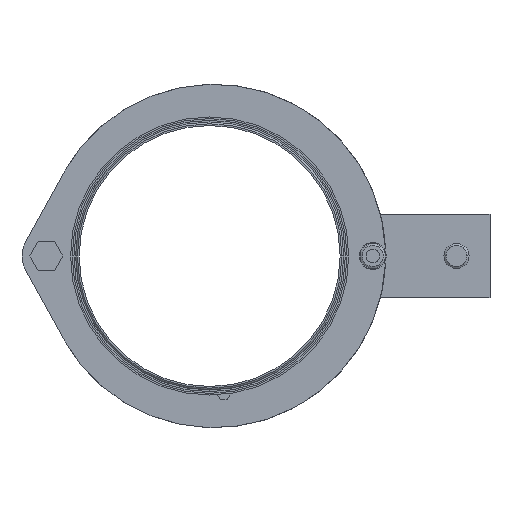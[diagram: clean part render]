
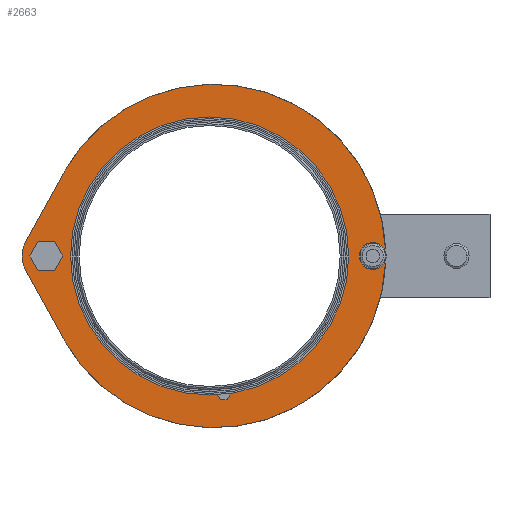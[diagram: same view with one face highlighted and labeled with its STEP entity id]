
A CAD part, left-side view. The second image highlights one B-rep face of the part: STEP entity #2663.
In plain terms, the highlighted planar face has unit normal (-1, 0, 0).
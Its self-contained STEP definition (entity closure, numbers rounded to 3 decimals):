
#182=CARTESIAN_POINT('',(-3.,0.,0.));
#183=DIRECTION('',(-1.,0.,0.));
#184=DIRECTION('',(0.,0.876,-0.483));
#185=AXIS2_PLACEMENT_3D('',#182,#183,#184);
#220=DIRECTION('',(0.,0.5,0.866));
#221=VECTOR('',#220,9.8);
#222=CARTESIAN_POINT('',(-3.,90.2,0.));
#223=LINE('',#222,#221);
#227=DIRECTION('',(0.,1.,0.));
#228=VECTOR('',#227,9.8);
#229=CARTESIAN_POINT('',(-3.,95.1,8.487));
#230=LINE('',#229,#228);
#234=DIRECTION('',(0.,0.5,-0.866));
#235=VECTOR('',#234,9.8);
#236=CARTESIAN_POINT('',(-3.,104.9,8.487));
#237=LINE('',#236,#235);
#241=DIRECTION('',(0.,-0.5,-0.866));
#242=VECTOR('',#241,9.8);
#243=CARTESIAN_POINT('',(-3.,109.8,0.));
#244=LINE('',#243,#242);
#248=DIRECTION('',(0.,-1.,0.));
#249=VECTOR('',#248,9.8);
#250=CARTESIAN_POINT('',(-3.,104.9,-8.487));
#251=LINE('',#250,#249);
#255=DIRECTION('',(0.,-0.5,0.866));
#256=VECTOR('',#255,9.8);
#257=CARTESIAN_POINT('',(-3.,95.1,-8.487));
#258=LINE('',#257,#256);
#262=CARTESIAN_POINT('',(-3.,-94.841,0.));
#263=DIRECTION('',(-1.,0.,0.));
#264=DIRECTION('',(0.,1.,0.));
#265=AXIS2_PLACEMENT_3D('',#262,#263,#264);
#270=DIRECTION('',(0.,1.,0.));
#271=VECTOR('',#270,0.793);
#272=CARTESIAN_POINT('',(-3.,-102.412,-4.25));
#273=LINE('',#272,#271);
#277=DIRECTION('',(0.,-0.483,-0.876));
#278=VECTOR('',#277,46.604);
#279=CARTESIAN_POINT('',(-3.,112.261,-8.693));
#280=LINE('',#279,#278);
#284=CARTESIAN_POINT('',(-3.,96.5,0.));
#285=DIRECTION('',(-1.,0.,0.));
#286=DIRECTION('',(0.,0.876,0.483));
#287=AXIS2_PLACEMENT_3D('',#284,#285,#286);
#292=DIRECTION('',(0.,0.483,-0.876));
#293=VECTOR('',#292,46.604);
#294=CARTESIAN_POINT('',(-3.,89.754,49.502));
#295=LINE('',#294,#293);
#299=CARTESIAN_POINT('',(-3.,0.,0.));
#300=DIRECTION('',(-1.,0.,0.));
#301=DIRECTION('',(0.,-0.999,0.041));
#302=AXIS2_PLACEMENT_3D('',#299,#300,#301);
#307=DIRECTION('',(0.,-1.,0.));
#308=VECTOR('',#307,0.793);
#309=CARTESIAN_POINT('',(-3.,-101.619,4.25));
#310=LINE('',#309,#308);
#314=CARTESIAN_POINT('',(-3.,-94.841,0.));
#315=DIRECTION('',(-1.,0.,0.));
#316=DIRECTION('',(0.,-0.847,0.531));
#317=AXIS2_PLACEMENT_3D('',#314,#315,#316);
#322=CARTESIAN_POINT('',(-3.,2.5,0.));
#323=DIRECTION('',(-1.,0.,0.));
#324=DIRECTION('',(0.,1.,0.));
#325=AXIS2_PLACEMENT_3D('',#322,#323,#324);
#330=DIRECTION('',(0.,0.5,-0.866));
#331=VECTOR('',#330,2.896);
#332=CARTESIAN_POINT('',(-3.,-3.408,-79.782));
#333=LINE('',#332,#331);
#337=DIRECTION('',(0.,-0.5,-0.866));
#338=VECTOR('',#337,4.);
#339=CARTESIAN_POINT('',(-3.,-1.96,-82.29));
#340=LINE('',#339,#338);
#344=DIRECTION('',(0.,-1.,0.));
#345=VECTOR('',#344,4.);
#346=CARTESIAN_POINT('',(-3.,-3.96,-85.754));
#347=LINE('',#346,#345);
#351=DIRECTION('',(0.,-0.5,0.866));
#352=VECTOR('',#351,4.);
#353=CARTESIAN_POINT('',(-3.,-7.96,-85.754));
#354=LINE('',#353,#352);
#358=DIRECTION('',(0.,0.5,0.866));
#359=VECTOR('',#358,3.478);
#360=CARTESIAN_POINT('',(-3.,-9.96,-82.29));
#361=LINE('',#360,#359);
#365=CARTESIAN_POINT('',(-3.,2.5,0.));
#366=DIRECTION('',(-1.,0.,0.));
#367=DIRECTION('',(0.,-0.134,-0.991));
#368=AXIS2_PLACEMENT_3D('',#365,#366,#367);
#373=CARTESIAN_POINT('',(-3.,2.5,0.));
#374=DIRECTION('',(-1.,0.,0.));
#375=DIRECTION('',(0.,-1.,0.));
#376=AXIS2_PLACEMENT_3D('',#373,#374,#375);
#2097=CARTESIAN_POINT('',(-3.,89.754,49.502));
#2098=CARTESIAN_POINT('',(-3.,112.261,8.693));
#2099=VERTEX_POINT('',#2097);
#2100=VERTEX_POINT('',#2098);
#2101=CARTESIAN_POINT('',(-3.,112.261,-8.693));
#2102=VERTEX_POINT('',#2101);
#2103=CARTESIAN_POINT('',(-3.,89.754,-49.502));
#2104=VERTEX_POINT('',#2103);
#2105=CARTESIAN_POINT('',(-3.,-102.412,4.25));
#2106=VERTEX_POINT('',#2105);
#2119=CARTESIAN_POINT('',(-3.,90.2,0.));
#2120=CARTESIAN_POINT('',(-3.,95.1,8.487));
#2121=VERTEX_POINT('',#2119);
#2122=VERTEX_POINT('',#2120);
#2123=CARTESIAN_POINT('',(-3.,104.9,8.487));
#2124=VERTEX_POINT('',#2123);
#2125=CARTESIAN_POINT('',(-3.,109.8,0.));
#2126=VERTEX_POINT('',#2125);
#2127=CARTESIAN_POINT('',(-3.,104.9,-8.487));
#2128=VERTEX_POINT('',#2127);
#2129=CARTESIAN_POINT('',(-3.,95.1,-8.487));
#2130=VERTEX_POINT('',#2129);
#2139=CARTESIAN_POINT('',(-3.,-1.96,-82.29));
#2140=CARTESIAN_POINT('',(-3.,-3.96,-85.754));
#2141=VERTEX_POINT('',#2139);
#2142=VERTEX_POINT('',#2140);
#2143=CARTESIAN_POINT('',(-3.,-7.96,-85.754));
#2144=VERTEX_POINT('',#2143);
#2145=CARTESIAN_POINT('',(-3.,-9.96,-82.29));
#2146=VERTEX_POINT('',#2145);
#2261=CARTESIAN_POINT('',(-3.,-102.412,-4.25));
#2262=VERTEX_POINT('',#2261);
#2333=CARTESIAN_POINT('',(-3.,-86.841,0.));
#2334=CARTESIAN_POINT('',(-3.,-101.619,-4.25));
#2335=VERTEX_POINT('',#2333);
#2336=VERTEX_POINT('',#2334);
#2337=CARTESIAN_POINT('',(-3.,-101.619,4.25));
#2338=VERTEX_POINT('',#2337);
#2407=CARTESIAN_POINT('',(-3.,82.5,0.));
#2408=CARTESIAN_POINT('',(-3.,-3.408,-79.782));
#2409=VERTEX_POINT('',#2407);
#2410=VERTEX_POINT('',#2408);
#2411=CARTESIAN_POINT('',(-3.,-8.221,-79.278));
#2412=CARTESIAN_POINT('',(-3.,-77.5,0.));
#2413=VERTEX_POINT('',#2411);
#2414=VERTEX_POINT('',#2412);
#2607=CARTESIAN_POINT('',(-3.,0.,0.));
#2608=DIRECTION('',(-1.,0.,0.));
#2609=DIRECTION('',(0.,0.,1.));
#2610=AXIS2_PLACEMENT_3D('',#2607,#2608,#2609);
#2611=PLANE('',#2610);
#2613=ORIENTED_EDGE('',*,*,#2612,.T.);
#2615=ORIENTED_EDGE('',*,*,#2614,.F.);
#2616=ORIENTED_EDGE('',*,*,#2594,.F.);
#2618=ORIENTED_EDGE('',*,*,#2617,.F.);
#2620=ORIENTED_EDGE('',*,*,#2619,.F.);
#2622=ORIENTED_EDGE('',*,*,#2621,.F.);
#2624=ORIENTED_EDGE('',*,*,#2623,.F.);
#2626=ORIENTED_EDGE('',*,*,#2625,.F.);
#2628=ORIENTED_EDGE('',*,*,#2627,.T.);
#2629=EDGE_LOOP('',(#2613,#2615,#2616,#2618,#2620,#2622,#2624,#2626,#2628));
#2630=FACE_OUTER_BOUND('',#2629,.F.);
#2632=ORIENTED_EDGE('',*,*,#2631,.T.);
#2634=ORIENTED_EDGE('',*,*,#2633,.T.);
#2636=ORIENTED_EDGE('',*,*,#2635,.T.);
#2638=ORIENTED_EDGE('',*,*,#2637,.T.);
#2640=ORIENTED_EDGE('',*,*,#2639,.T.);
#2642=ORIENTED_EDGE('',*,*,#2641,.T.);
#2643=EDGE_LOOP('',(#2632,#2634,#2636,#2638,#2640,#2642));
#2644=FACE_BOUND('',#2643,.F.);
#2646=ORIENTED_EDGE('',*,*,#2645,.T.);
#2648=ORIENTED_EDGE('',*,*,#2647,.T.);
#2650=ORIENTED_EDGE('',*,*,#2649,.T.);
#2652=ORIENTED_EDGE('',*,*,#2651,.T.);
#2654=ORIENTED_EDGE('',*,*,#2653,.T.);
#2656=ORIENTED_EDGE('',*,*,#2655,.T.);
#2658=ORIENTED_EDGE('',*,*,#2657,.T.);
#2660=ORIENTED_EDGE('',*,*,#2659,.T.);
#2661=EDGE_LOOP('',(#2646,#2648,#2650,#2652,#2654,#2656,#2658,#2660));
#2662=FACE_BOUND('',#2661,.F.);
#186=CIRCLE('',#185,102.5);
#266=CIRCLE('',#265,8.);
#288=CIRCLE('',#287,18.);
#303=CIRCLE('',#302,102.5);
#318=CIRCLE('',#317,8.);
#326=CIRCLE('',#325,80.);
#369=CIRCLE('',#368,80.);
#377=CIRCLE('',#376,80.);
#2594=EDGE_CURVE('',#2104,#2262,#186,.T.);
#2612=EDGE_CURVE('',#2335,#2336,#266,.T.);
#2614=EDGE_CURVE('',#2262,#2336,#273,.T.);
#2617=EDGE_CURVE('',#2102,#2104,#280,.T.);
#2619=EDGE_CURVE('',#2100,#2102,#288,.T.);
#2621=EDGE_CURVE('',#2099,#2100,#295,.T.);
#2623=EDGE_CURVE('',#2106,#2099,#303,.T.);
#2625=EDGE_CURVE('',#2338,#2106,#310,.T.);
#2627=EDGE_CURVE('',#2338,#2335,#318,.T.);
#2631=EDGE_CURVE('',#2121,#2122,#223,.T.);
#2633=EDGE_CURVE('',#2122,#2124,#230,.T.);
#2635=EDGE_CURVE('',#2124,#2126,#237,.T.);
#2637=EDGE_CURVE('',#2126,#2128,#244,.T.);
#2639=EDGE_CURVE('',#2128,#2130,#251,.T.);
#2641=EDGE_CURVE('',#2130,#2121,#258,.T.);
#2645=EDGE_CURVE('',#2409,#2410,#326,.T.);
#2647=EDGE_CURVE('',#2410,#2141,#333,.T.);
#2649=EDGE_CURVE('',#2141,#2142,#340,.T.);
#2651=EDGE_CURVE('',#2142,#2144,#347,.T.);
#2653=EDGE_CURVE('',#2144,#2146,#354,.T.);
#2655=EDGE_CURVE('',#2146,#2413,#361,.T.);
#2657=EDGE_CURVE('',#2413,#2414,#369,.T.);
#2659=EDGE_CURVE('',#2414,#2409,#377,.T.);
#2663=ADVANCED_FACE('',(#2630,#2644,#2662),#2611,.T.);
